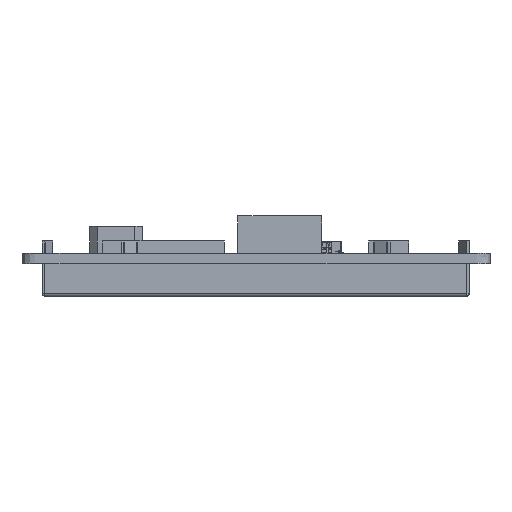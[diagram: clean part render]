
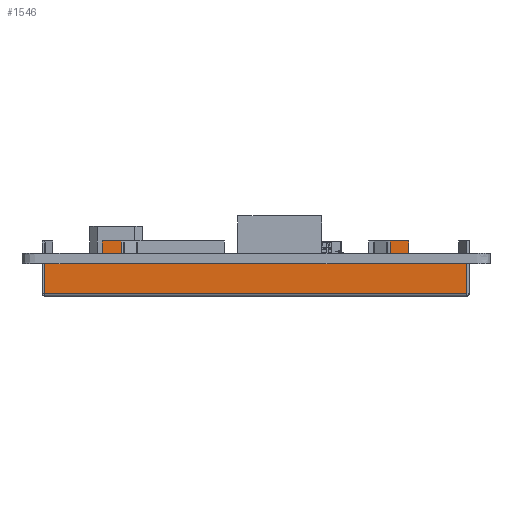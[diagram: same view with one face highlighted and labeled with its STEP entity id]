
A CAD part, left-side view. The second image highlights one B-rep face of the part: STEP entity #1546.
In plain terms, the highlighted planar face has unit normal (-1, 0, 0).
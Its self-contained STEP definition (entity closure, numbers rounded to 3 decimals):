
#1546=ADVANCED_FACE('',(#3546),#2687,.F.);
#2687=PLANE('',#22905);
#3546=FACE_OUTER_BOUND('',#4659,.T.);
#4659=EDGE_LOOP('',(#5893,#5894,#5895,#5896,#5897,#5898,#5899,#5900,#5901,
#5902,#5903,#5904,#5905,#5906,#5907,#5908));
#5893=ORIENTED_EDGE('',*,*,#14478,.T.);
#5894=ORIENTED_EDGE('',*,*,#14479,.F.);
#5895=ORIENTED_EDGE('',*,*,#14480,.F.);
#5896=ORIENTED_EDGE('',*,*,#14481,.T.);
#5897=ORIENTED_EDGE('',*,*,#14482,.T.);
#5898=ORIENTED_EDGE('',*,*,#14483,.T.);
#5899=ORIENTED_EDGE('',*,*,#14476,.T.);
#5900=ORIENTED_EDGE('',*,*,#14484,.F.);
#5901=ORIENTED_EDGE('',*,*,#14485,.T.);
#5902=ORIENTED_EDGE('',*,*,#14486,.F.);
#5903=ORIENTED_EDGE('',*,*,#14487,.F.);
#5904=ORIENTED_EDGE('',*,*,#14488,.T.);
#5905=ORIENTED_EDGE('',*,*,#14470,.T.);
#5906=ORIENTED_EDGE('',*,*,#14489,.F.);
#5907=ORIENTED_EDGE('',*,*,#14490,.F.);
#5908=ORIENTED_EDGE('',*,*,#14491,.T.);
#12359=VERTEX_POINT('',#30623);
#12360=VERTEX_POINT('',#30624);
#12365=VERTEX_POINT('',#30635);
#12366=VERTEX_POINT('',#30637);
#12367=VERTEX_POINT('',#30641);
#12368=VERTEX_POINT('',#30642);
#12369=VERTEX_POINT('',#30644);
#12370=VERTEX_POINT('',#30646);
#12371=VERTEX_POINT('',#30648);
#12372=VERTEX_POINT('',#30650);
#12373=VERTEX_POINT('',#30653);
#12374=VERTEX_POINT('',#30655);
#12375=VERTEX_POINT('',#30657);
#12376=VERTEX_POINT('',#30659);
#12377=VERTEX_POINT('',#30662);
#12378=VERTEX_POINT('',#30664);
#14470=EDGE_CURVE('',#12359,#12360,#17707,.T.);
#14476=EDGE_CURVE('',#12366,#12365,#17713,.T.);
#14478=EDGE_CURVE('',#12367,#12368,#17715,.T.);
#14479=EDGE_CURVE('',#12369,#12368,#17716,.T.);
#14480=EDGE_CURVE('',#12370,#12369,#17717,.T.);
#14481=EDGE_CURVE('',#12370,#12371,#17718,.T.);
#14482=EDGE_CURVE('',#12371,#12372,#17719,.T.);
#14483=EDGE_CURVE('',#12372,#12366,#17720,.T.);
#14484=EDGE_CURVE('',#12373,#12365,#17721,.T.);
#14485=EDGE_CURVE('',#12373,#12374,#17722,.T.);
#14486=EDGE_CURVE('',#12375,#12374,#17723,.T.);
#14487=EDGE_CURVE('',#12376,#12375,#17724,.T.);
#14488=EDGE_CURVE('',#12376,#12359,#17725,.T.);
#14489=EDGE_CURVE('',#12377,#12360,#17726,.T.);
#14490=EDGE_CURVE('',#12378,#12377,#17727,.T.);
#14491=EDGE_CURVE('',#12378,#12367,#17728,.T.);
#17707=LINE('',#30622,#20304);
#17713=LINE('',#30636,#20310);
#17715=LINE('',#30640,#20312);
#17716=LINE('',#30643,#20313);
#17717=LINE('',#30645,#20314);
#17718=LINE('',#30647,#20315);
#17719=LINE('',#30649,#20316);
#17720=LINE('',#30651,#20317);
#17721=LINE('',#30652,#20318);
#17722=LINE('',#30654,#20319);
#17723=LINE('',#30656,#20320);
#17724=LINE('',#30658,#20321);
#17725=LINE('',#30660,#20322);
#17726=LINE('',#30661,#20323);
#17727=LINE('',#30663,#20324);
#17728=LINE('',#30665,#20325);
#20304=VECTOR('',#24611,1.);
#20310=VECTOR('',#24619,1.);
#20312=VECTOR('',#24623,1.);
#20313=VECTOR('',#24624,1.);
#20314=VECTOR('',#24625,1.);
#20315=VECTOR('',#24626,1.);
#20316=VECTOR('',#24627,1.);
#20317=VECTOR('',#24628,1.);
#20318=VECTOR('',#24629,1.);
#20319=VECTOR('',#24630,1.);
#20320=VECTOR('',#24631,1.);
#20321=VECTOR('',#24632,1.);
#20322=VECTOR('',#24633,1.);
#20323=VECTOR('',#24634,1.);
#20324=VECTOR('',#24635,1.);
#20325=VECTOR('',#24636,1.);
#22905=AXIS2_PLACEMENT_3D('',#30666,#24637,#24638);
#24611=DIRECTION('',(0.,1.,0.));
#24619=DIRECTION('',(0.,1.,0.));
#24623=DIRECTION('',(0.,1.,0.));
#24624=DIRECTION('',(0.,0.,-1.));
#24625=DIRECTION('',(0.,-1.,0.));
#24626=DIRECTION('',(0.,0.,-1.));
#24627=DIRECTION('',(0.,1.,0.));
#24628=DIRECTION('',(0.,0.,-1.));
#24629=DIRECTION('',(0.,0.,-1.));
#24630=DIRECTION('',(0.,-1.,0.));
#24631=DIRECTION('',(0.,0.,-1.));
#24632=DIRECTION('',(0.,-1.,0.));
#24633=DIRECTION('',(0.,0.,-1.));
#24634=DIRECTION('',(0.,0.,1.));
#24635=DIRECTION('',(0.,1.,0.));
#24636=DIRECTION('',(0.,0.,1.));
#24637=DIRECTION('',(1.,0.,0.));
#24638=DIRECTION('',(0.,1.,0.));
#30622=CARTESIAN_POINT('',(223.499,-16.955,-1.6));
#30623=CARTESIAN_POINT('',(223.499,41.205,-1.6));
#30624=CARTESIAN_POINT('',(223.499,50.445,-1.6));
#30635=CARTESIAN_POINT('',(223.499,38.205,-1.6));
#30636=CARTESIAN_POINT('',(223.499,-16.955,-1.6));
#30637=CARTESIAN_POINT('',(223.499,-4.715,-1.6));
#30640=CARTESIAN_POINT('',(223.499,-16.955,-1.6));
#30641=CARTESIAN_POINT('',(223.499,-16.955,-1.6));
#30642=CARTESIAN_POINT('',(223.499,-7.715,-1.6));
#30643=CARTESIAN_POINT('',(223.499,-7.715,0.));
#30644=CARTESIAN_POINT('',(223.499,-7.715,2.));
#30645=CARTESIAN_POINT('',(223.499,-4.75,2.));
#30646=CARTESIAN_POINT('',(223.499,-4.75,2.));
#30647=CARTESIAN_POINT('',(223.499,-4.75,2.));
#30648=CARTESIAN_POINT('',(223.499,-4.75,0.));
#30649=CARTESIAN_POINT('',(223.499,-7.715,0.));
#30650=CARTESIAN_POINT('',(223.499,-4.715,0.));
#30651=CARTESIAN_POINT('',(223.499,-4.715,0.));
#30652=CARTESIAN_POINT('',(223.499,38.205,0.));
#30653=CARTESIAN_POINT('',(223.499,38.205,0.));
#30654=CARTESIAN_POINT('',(223.499,41.205,0.));
#30655=CARTESIAN_POINT('',(223.499,38.194,0.));
#30656=CARTESIAN_POINT('',(223.499,38.194,2.));
#30657=CARTESIAN_POINT('',(223.499,38.194,2.));
#30658=CARTESIAN_POINT('',(223.499,41.205,2.));
#30659=CARTESIAN_POINT('',(223.499,41.205,2.));
#30660=CARTESIAN_POINT('',(223.499,41.205,0.));
#30661=CARTESIAN_POINT('',(223.499,50.445,-6.4));
#30662=CARTESIAN_POINT('',(223.499,50.445,-6.4));
#30663=CARTESIAN_POINT('',(223.499,-16.955,-6.4));
#30664=CARTESIAN_POINT('',(223.499,-16.955,-6.4));
#30665=CARTESIAN_POINT('',(223.499,-16.955,-6.4));
#30666=CARTESIAN_POINT('',(223.499,-16.955,-6.4));
